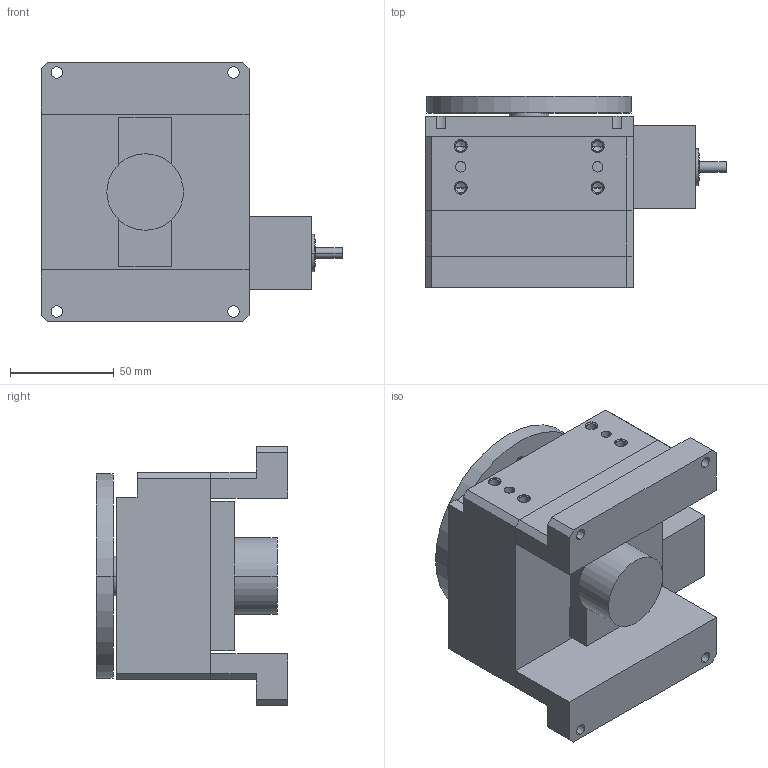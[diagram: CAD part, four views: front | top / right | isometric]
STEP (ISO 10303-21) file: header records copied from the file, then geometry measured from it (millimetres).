
FILE_DESCRIPTION((''),'2;1');
FILE_NAME('R100M6M00E1_ASM','2009-07-02T',('FK20128'),(''),'PRO/ENGINEER BY PARAMETRIC TECHNOLOGY CORPORATION, 2006200','PRO/ENGINEER BY PARAMETRIC TECHNOLOGY CORPORATION, 2006200','');
FILE_SCHEMA(('CONFIG_CONTROL_DESIGN'));
Length unit declared in the file: millimetre
Products named in the file (6): R100M; R100M-ENCODER-BRKT; RXXXM-ENCODER; R100M-ENCODER-STANDOFF; R100M-E1_ASM; R100M6M00E1_ASM
Assembly tree (6 placements, depth 3):
  R100M6M00E1_ASM
    R100M
    R100M-E1_ASM
      R100M-ENCODER-BRKT
      RXXXM-ENCODER
      R100M-ENCODER-STANDOFF  x2
Bounding box: 145.1 x 92.01 x 125 mm (x, y, z)
Volume: 700022.8 mm3; surface area: 110741 mm2
Topology: 5 solids, 23 shells, 246 faces, 600 edges, 398 vertices
Faces by surface type: cylinder 132, plane 92, cone 22
Entity records: 6673 total; most frequent: DIRECTION 1276, CARTESIAN_POINT 1106, ORIENTED_EDGE 972, AXIS2_PLACEMENT_3D 520, EDGE_CURVE 518, VERTEX_POINT 350, EDGE_LOOP 292, CIRCLE 282
